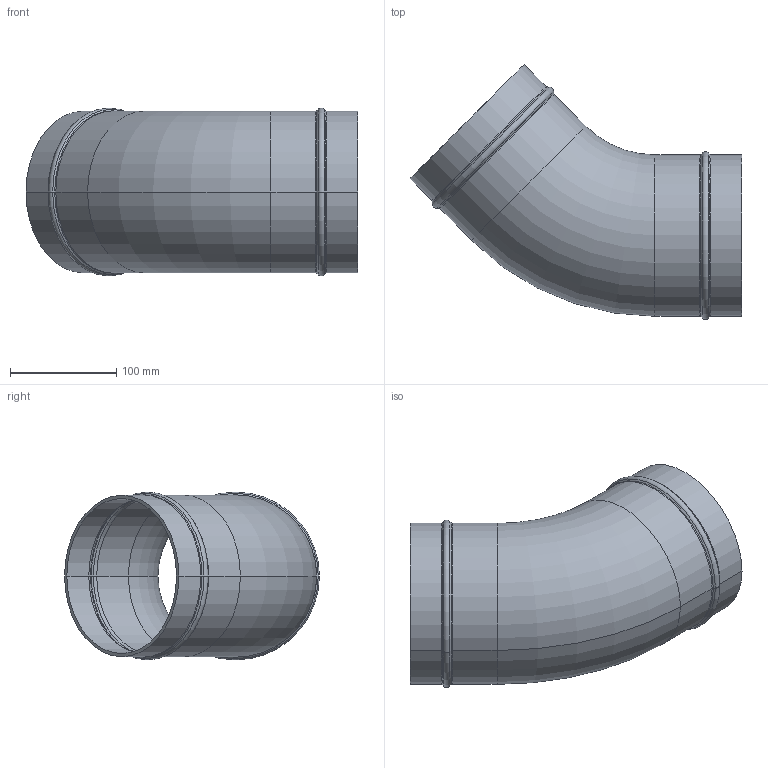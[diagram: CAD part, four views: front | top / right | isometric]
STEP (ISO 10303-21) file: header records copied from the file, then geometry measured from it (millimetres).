
FILE_DESCRIPTION(/* description */ (''),/* implementation_level */ '2;1');
FILE_NAME(/* name */ '9004_stp.stp',/* time_stamp */ '2025-06-20T11:33:23+08:00',/* author */ (''),/* organization */ (''),/* preprocessor_version */ 'ST-DEVELOPER v14',/* originating_system */ 'SIEMENS PLM Software NX 8.0',/* authorisation */ '');
FILE_SCHEMA (('AP203_CONFIGURATION_CONTROLLED_3D_DESIGN_OF_MECHANICAL_PARTS_AND_ASSEMBLIES_MIM_LF { 1 0 10303 403 2 1 2}'));
Length unit declared in the file: millimetre
Products named in the file (1): Admi0BECFFFE4xq9
Bounding box: 312.52 x 239.89 x 157.92 mm (x, y, z)
Volume: 421878.8 mm3; surface area: 284061.1 mm2
Topology: 1 solids, 1 shells, 62 faces, 132 edges, 72 vertices
Faces by surface type: torus 28, cylinder 16, cone 16, plane 2
Entity records: 1768 total; most frequent: DIRECTION 358, CARTESIAN_POINT 267, ORIENTED_EDGE 264, AXIS2_PLACEMENT_3D 163, EDGE_CURVE 132, CIRCLE 100, VERTEX_POINT 72, EDGE_LOOP 64
